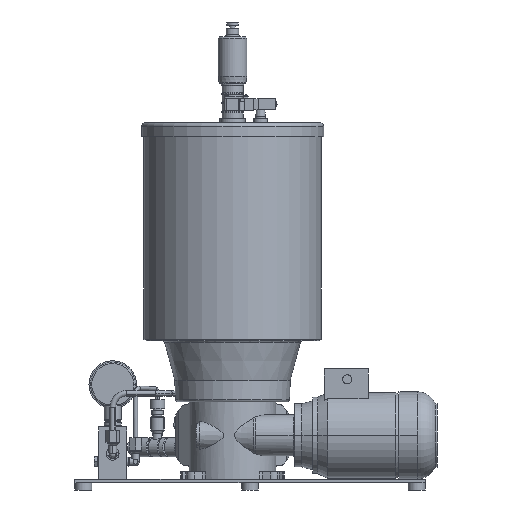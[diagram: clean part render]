
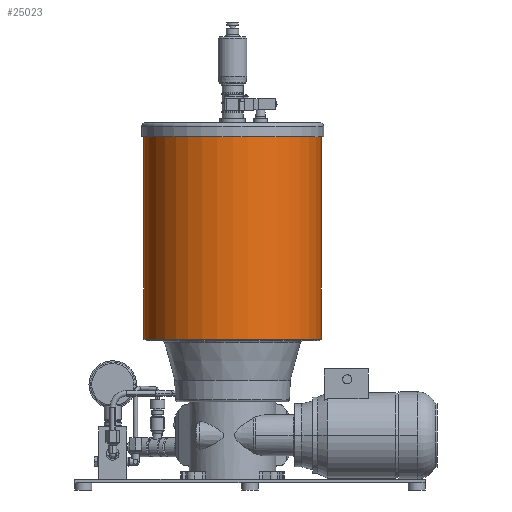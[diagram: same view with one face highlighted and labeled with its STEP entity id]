
A CAD part, left-side view. The second image highlights one B-rep face of the part: STEP entity #25023.
In plain terms, the highlighted cylindrical face has radius 126.483 mm (diameter 252.966 mm), a partial arc.
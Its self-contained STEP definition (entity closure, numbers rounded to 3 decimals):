
#20021=CARTESIAN_POINT('',(126.483,0.0,-128.877));
#20022=VERTEX_POINT('',#20021);
#20038=CARTESIAN_POINT('',(-126.483,0.,-128.877));
#20039=VERTEX_POINT('',#20038);
#20061=CARTESIAN_POINT('',(126.483,0.0,159.943));
#20062=VERTEX_POINT('',#20061);
#20063=CARTESIAN_POINT('',(126.483,0.0,-128.877));
#20064=DIRECTION('',(0.0,0.0,1.0));
#20065=VECTOR('',#20064,288.82);
#20066=LINE('',#20063,#20065);
#20067=EDGE_CURVE('',#20022,#20062,#20066,.T.);
#20070=CARTESIAN_POINT('',(-126.483,0.,159.943));
#20071=VERTEX_POINT('',#20070);
#20072=CARTESIAN_POINT('',(-126.483,0.,-128.877));
#20073=DIRECTION('',(0.0,0.0,1.0));
#20074=VECTOR('',#20073,288.82);
#20075=LINE('',#20072,#20074);
#20076=EDGE_CURVE('',#20039,#20071,#20075,.T.);
#24995=CARTESIAN_POINT('',(0.,0.0,159.943));
#24996=DIRECTION('',(0.0,0.0,-1.0));
#24997=DIRECTION('',(1.0,0.0,0.0));
#24998=AXIS2_PLACEMENT_3D('',#24995,#24996,#24997);
#24999=CIRCLE('',#24998,126.483);
#25000=EDGE_CURVE('',#20062,#20071,#24999,.T.);
#25006=CARTESIAN_POINT('',(0.,0.0,15.533));
#25007=DIRECTION('',(0.,0.0,-1.0));
#25008=DIRECTION('',(1.0,0.0,0.0));
#25009=AXIS2_PLACEMENT_3D('',#25006,#25007,#25008);
#25010=CYLINDRICAL_SURFACE('',#25009,126.483);
#25011=ORIENTED_EDGE('',*,*,#20067,.T.);
#25012=ORIENTED_EDGE('',*,*,#25000,.T.);
#25013=ORIENTED_EDGE('',*,*,#20076,.F.);
#25014=CARTESIAN_POINT('',(0.,0.0,-128.877));
#25015=DIRECTION('',(0.0,0.0,-1.0));
#25016=DIRECTION('',(1.0,0.0,0.0));
#25017=AXIS2_PLACEMENT_3D('',#25014,#25015,#25016);
#25018=CIRCLE('',#25017,126.483);
#25019=EDGE_CURVE('',#20022,#20039,#25018,.T.);
#25020=ORIENTED_EDGE('',*,*,#25019,.F.);
#25021=EDGE_LOOP('',(#25011,#25012,#25013,#25020));
#25022=FACE_OUTER_BOUND('',#25021,.T.);
#25023=ADVANCED_FACE('',(#25022),#25010,.T.);
